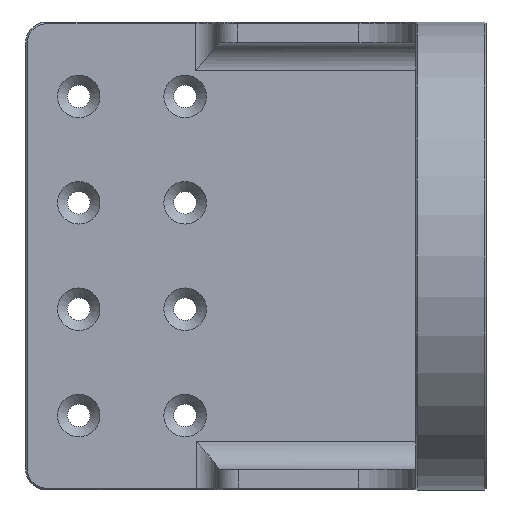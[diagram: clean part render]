
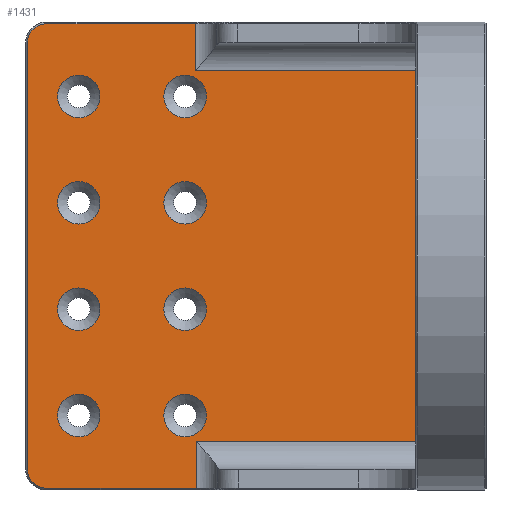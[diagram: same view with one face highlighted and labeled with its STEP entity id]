
A CAD part, front view. The second image highlights one B-rep face of the part: STEP entity #1431.
In plain terms, the highlighted planar face has unit normal (0, -1, 0).
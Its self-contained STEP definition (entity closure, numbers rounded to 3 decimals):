
#47=FACE_BOUND('',#185,.T.);
#48=FACE_BOUND('',#186,.T.);
#49=FACE_BOUND('',#187,.T.);
#50=FACE_BOUND('',#188,.T.);
#51=FACE_BOUND('',#189,.T.);
#52=FACE_BOUND('',#190,.T.);
#53=FACE_BOUND('',#191,.T.);
#54=FACE_BOUND('',#192,.T.);
#66=PLANE('',#1543);
#96=FACE_OUTER_BOUND('',#184,.T.);
#184=EDGE_LOOP('',(#998,#999,#1000,#1001,#1002,#1003,#1004,#1005,#1006,
#1007,#1008,#1009,#1010,#1011));
#185=EDGE_LOOP('',(#1012));
#186=EDGE_LOOP('',(#1013));
#187=EDGE_LOOP('',(#1014));
#188=EDGE_LOOP('',(#1015));
#189=EDGE_LOOP('',(#1016));
#190=EDGE_LOOP('',(#1017));
#191=EDGE_LOOP('',(#1018));
#192=EDGE_LOOP('',(#1019));
#294=LINE('',#2176,#422);
#299=LINE('',#2191,#427);
#302=LINE('',#2207,#430);
#304=LINE('',#2217,#432);
#305=LINE('',#2219,#433);
#306=LINE('',#2223,#434);
#307=LINE('',#2227,#435);
#308=LINE('',#2229,#436);
#309=LINE('',#2230,#437);
#310=LINE('',#2232,#438);
#311=LINE('',#2234,#439);
#312=LINE('',#2235,#440);
#422=VECTOR('',#1700,10.);
#427=VECTOR('',#1713,10.);
#430=VECTOR('',#1726,10.);
#432=VECTOR('',#1736,10.);
#433=VECTOR('',#1737,10.);
#434=VECTOR('',#1740,10.);
#435=VECTOR('',#1743,10.);
#436=VECTOR('',#1744,10.);
#437=VECTOR('',#1745,10.);
#438=VECTOR('',#1746,10.);
#439=VECTOR('',#1747,10.);
#440=VECTOR('',#1748,10.);
#560=CIRCLE('',#1544,2.75);
#561=CIRCLE('',#1545,2.75);
#562=CIRCLE('',#1546,3.);
#563=CIRCLE('',#1547,3.);
#564=CIRCLE('',#1548,3.);
#565=CIRCLE('',#1549,3.);
#566=CIRCLE('',#1550,3.);
#567=CIRCLE('',#1551,3.);
#568=CIRCLE('',#1552,3.);
#569=CIRCLE('',#1553,3.);
#629=VERTEX_POINT('',#2154);
#632=VERTEX_POINT('',#2165);
#638=VERTEX_POINT('',#2190);
#645=VERTEX_POINT('',#2204);
#646=VERTEX_POINT('',#2206);
#650=VERTEX_POINT('',#2216);
#651=VERTEX_POINT('',#2218);
#652=VERTEX_POINT('',#2220);
#653=VERTEX_POINT('',#2222);
#654=VERTEX_POINT('',#2224);
#655=VERTEX_POINT('',#2226);
#656=VERTEX_POINT('',#2228);
#657=VERTEX_POINT('',#2231);
#658=VERTEX_POINT('',#2233);
#659=VERTEX_POINT('',#2236);
#660=VERTEX_POINT('',#2238);
#661=VERTEX_POINT('',#2240);
#662=VERTEX_POINT('',#2242);
#663=VERTEX_POINT('',#2244);
#664=VERTEX_POINT('',#2246);
#665=VERTEX_POINT('',#2248);
#666=VERTEX_POINT('',#2250);
#760=EDGE_CURVE('',#632,#629,#294,.T.);
#767=EDGE_CURVE('',#629,#638,#299,.F.);
#775=EDGE_CURVE('',#645,#646,#302,.F.);
#780=EDGE_CURVE('',#632,#650,#304,.T.);
#781=EDGE_CURVE('',#651,#650,#305,.T.);
#782=EDGE_CURVE('',#652,#651,#560,.T.);
#783=EDGE_CURVE('',#653,#652,#306,.T.);
#784=EDGE_CURVE('',#654,#653,#561,.T.);
#785=EDGE_CURVE('',#655,#654,#307,.T.);
#786=EDGE_CURVE('',#655,#656,#308,.T.);
#787=EDGE_CURVE('',#646,#656,#309,.T.);
#788=EDGE_CURVE('',#657,#645,#310,.T.);
#789=EDGE_CURVE('',#658,#657,#311,.T.);
#790=EDGE_CURVE('',#638,#658,#312,.T.);
#791=EDGE_CURVE('',#659,#659,#562,.T.);
#792=EDGE_CURVE('',#660,#660,#563,.T.);
#793=EDGE_CURVE('',#661,#661,#564,.T.);
#794=EDGE_CURVE('',#662,#662,#565,.T.);
#795=EDGE_CURVE('',#663,#663,#566,.T.);
#796=EDGE_CURVE('',#664,#664,#567,.T.);
#797=EDGE_CURVE('',#665,#665,#568,.T.);
#798=EDGE_CURVE('',#666,#666,#569,.T.);
#998=ORIENTED_EDGE('',*,*,#760,.F.);
#999=ORIENTED_EDGE('',*,*,#780,.T.);
#1000=ORIENTED_EDGE('',*,*,#781,.F.);
#1001=ORIENTED_EDGE('',*,*,#782,.F.);
#1002=ORIENTED_EDGE('',*,*,#783,.F.);
#1003=ORIENTED_EDGE('',*,*,#784,.F.);
#1004=ORIENTED_EDGE('',*,*,#785,.F.);
#1005=ORIENTED_EDGE('',*,*,#786,.T.);
#1006=ORIENTED_EDGE('',*,*,#787,.F.);
#1007=ORIENTED_EDGE('',*,*,#775,.F.);
#1008=ORIENTED_EDGE('',*,*,#788,.F.);
#1009=ORIENTED_EDGE('',*,*,#789,.F.);
#1010=ORIENTED_EDGE('',*,*,#790,.F.);
#1011=ORIENTED_EDGE('',*,*,#767,.F.);
#1012=ORIENTED_EDGE('',*,*,#791,.T.);
#1013=ORIENTED_EDGE('',*,*,#792,.T.);
#1014=ORIENTED_EDGE('',*,*,#793,.T.);
#1015=ORIENTED_EDGE('',*,*,#794,.T.);
#1016=ORIENTED_EDGE('',*,*,#795,.T.);
#1017=ORIENTED_EDGE('',*,*,#796,.T.);
#1018=ORIENTED_EDGE('',*,*,#797,.T.);
#1019=ORIENTED_EDGE('',*,*,#798,.T.);
#1431=ADVANCED_FACE('',(#96,#47,#48,#49,#50,#51,#52,#53,#54),#66,.T.);
#1543=AXIS2_PLACEMENT_3D('',#2215,#1734,#1735);
#1544=AXIS2_PLACEMENT_3D('',#2221,#1738,#1739);
#1545=AXIS2_PLACEMENT_3D('',#2225,#1741,#1742);
#1546=AXIS2_PLACEMENT_3D('',#2237,#1749,#1750);
#1547=AXIS2_PLACEMENT_3D('',#2239,#1751,#1752);
#1548=AXIS2_PLACEMENT_3D('',#2241,#1753,#1754);
#1549=AXIS2_PLACEMENT_3D('',#2243,#1755,#1756);
#1550=AXIS2_PLACEMENT_3D('',#2245,#1757,#1758);
#1551=AXIS2_PLACEMENT_3D('',#2247,#1759,#1760);
#1552=AXIS2_PLACEMENT_3D('',#2249,#1761,#1762);
#1553=AXIS2_PLACEMENT_3D('',#2251,#1763,#1764);
#1700=DIRECTION('',(1.,0.,0.));
#1713=DIRECTION('',(0.,0.,1.));
#1726=DIRECTION('',(0.,0.,1.));
#1734=DIRECTION('center_axis',(0.,-1.,0.));
#1735=DIRECTION('ref_axis',(0.,0.,-1.));
#1736=DIRECTION('',(0.,0.,1.));
#1737=DIRECTION('',(1.,0.,0.));
#1738=DIRECTION('center_axis',(0.,1.,0.));
#1739=DIRECTION('ref_axis',(-0.707,0.,0.707));
#1740=DIRECTION('',(0.,0.,1.));
#1741=DIRECTION('center_axis',(0.,1.,0.));
#1742=DIRECTION('ref_axis',(-0.707,0.,-0.707));
#1743=DIRECTION('',(-1.,0.,0.));
#1744=DIRECTION('',(0.,0.,1.));
#1745=DIRECTION('',(-1.,0.,0.));
#1746=DIRECTION('',(-1.,0.,0.));
#1747=DIRECTION('',(0.,0.,-1.));
#1748=DIRECTION('',(1.,0.,0.));
#1749=DIRECTION('center_axis',(0.,1.,0.));
#1750=DIRECTION('ref_axis',(0.,0.,-1.));
#1751=DIRECTION('center_axis',(0.,1.,0.));
#1752=DIRECTION('ref_axis',(0.,0.,-1.));
#1753=DIRECTION('center_axis',(0.,1.,0.));
#1754=DIRECTION('ref_axis',(0.,0.,-1.));
#1755=DIRECTION('center_axis',(0.,1.,0.));
#1756=DIRECTION('ref_axis',(0.,0.,-1.));
#1757=DIRECTION('center_axis',(0.,1.,0.));
#1758=DIRECTION('ref_axis',(0.,0.,-1.));
#1759=DIRECTION('center_axis',(0.,1.,0.));
#1760=DIRECTION('ref_axis',(0.,0.,-1.));
#1761=DIRECTION('center_axis',(0.,1.,0.));
#1762=DIRECTION('ref_axis',(0.,0.,-1.));
#1763=DIRECTION('center_axis',(0.,1.,0.));
#1764=DIRECTION('ref_axis',(0.,0.,-1.));
#2154=CARTESIAN_POINT('',(0.,45.,26.1));
#2165=CARTESIAN_POINT('',(-36.,45.,26.1));
#2176=CARTESIAN_POINT('',(0.,45.,26.1));
#2190=CARTESIAN_POINT('',(0.,45.,15.));
#2191=CARTESIAN_POINT('',(0.,45.,10.));
#2204=CARTESIAN_POINT('',(0.,45.,-15.));
#2206=CARTESIAN_POINT('',(0.,45.,-26.1));
#2207=CARTESIAN_POINT('',(0.,45.,10.));
#2215=CARTESIAN_POINT('Origin',(0.,45.,20.));
#2216=CARTESIAN_POINT('',(-36.,45.,32.75));
#2217=CARTESIAN_POINT('',(-36.,45.,26.5));
#2218=CARTESIAN_POINT('',(-57.,45.,32.75));
#2219=CARTESIAN_POINT('',(0.,45.,32.75));
#2220=CARTESIAN_POINT('',(-59.75,45.,30.));
#2221=CARTESIAN_POINT('Origin',(-57.,45.,30.));
#2222=CARTESIAN_POINT('',(-59.75,45.,-30.));
#2223=CARTESIAN_POINT('',(-59.75,45.,10.));
#2224=CARTESIAN_POINT('',(-57.,45.,-32.75));
#2225=CARTESIAN_POINT('Origin',(-57.,45.,-30.));
#2226=CARTESIAN_POINT('',(-35.916,45.,-32.75));
#2227=CARTESIAN_POINT('',(2.5,45.,-32.75));
#2228=CARTESIAN_POINT('',(-35.916,45.,-26.1));
#2229=CARTESIAN_POINT('',(-35.916,45.,33.));
#2230=CARTESIAN_POINT('',(0.,45.,-26.1));
#2231=CARTESIAN_POINT('',(4.75,45.,-15.));
#2232=CARTESIAN_POINT('',(0.,45.,-15.));
#2233=CARTESIAN_POINT('',(4.75,45.,15.));
#2234=CARTESIAN_POINT('',(4.75,45.,-15.));
#2235=CARTESIAN_POINT('',(0.,45.,15.));
#2236=CARTESIAN_POINT('',(-52.5,45.,-19.5));
#2237=CARTESIAN_POINT('Origin',(-52.5,45.,-22.5));
#2238=CARTESIAN_POINT('',(-52.5,45.,10.5));
#2239=CARTESIAN_POINT('Origin',(-52.5,45.,7.5));
#2240=CARTESIAN_POINT('',(-52.5,45.,25.5));
#2241=CARTESIAN_POINT('Origin',(-52.5,45.,22.5));
#2242=CARTESIAN_POINT('',(-52.5,45.,-4.5));
#2243=CARTESIAN_POINT('Origin',(-52.5,45.,-7.5));
#2244=CARTESIAN_POINT('',(-37.5,45.,-19.5));
#2245=CARTESIAN_POINT('Origin',(-37.5,45.,-22.5));
#2246=CARTESIAN_POINT('',(-37.5,45.,10.5));
#2247=CARTESIAN_POINT('Origin',(-37.5,45.,7.5));
#2248=CARTESIAN_POINT('',(-37.5,45.,25.5));
#2249=CARTESIAN_POINT('Origin',(-37.5,45.,22.5));
#2250=CARTESIAN_POINT('',(-37.5,45.,-4.5));
#2251=CARTESIAN_POINT('Origin',(-37.5,45.,-7.5));
